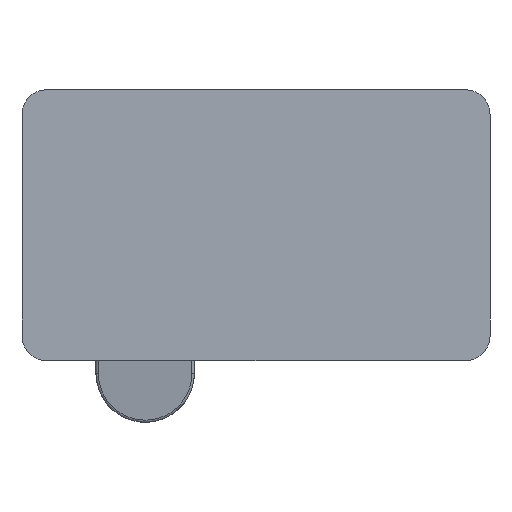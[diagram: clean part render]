
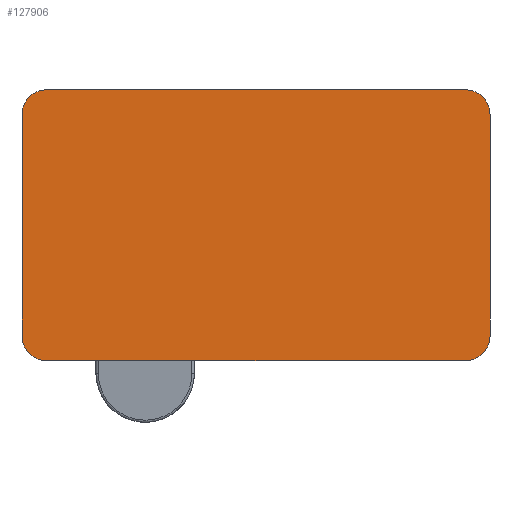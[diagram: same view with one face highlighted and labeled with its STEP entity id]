
A CAD part, front view. The second image highlights one B-rep face of the part: STEP entity #127906.
In plain terms, the highlighted planar face has unit normal (0, -1, 0).
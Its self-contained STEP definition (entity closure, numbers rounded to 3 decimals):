
#1494 = DIRECTION ( 'NONE',  ( 0., 0., 1. ) ) ;
#7765 = ORIENTED_EDGE ( 'NONE', *, *, #13666, .F. ) ;
#10540 = VERTEX_POINT ( 'NONE', #69849 ) ;
#10625 = LINE ( 'NONE', #12313, #63207 ) ;
#11127 = ORIENTED_EDGE ( 'NONE', *, *, #121320, .F. ) ;
#12313 = CARTESIAN_POINT ( 'NONE',  ( 50., 18., 187.046 ) ) ;
#13666 = EDGE_CURVE ( 'NONE', #21159, #10540, #35537, .T. ) ;
#17355 = EDGE_CURVE ( 'NONE', #141819, #43786, #98115, .T. ) ;
#19741 = CARTESIAN_POINT ( 'NONE',  ( 50., 18., 77.046 ) ) ;
#20115 = CARTESIAN_POINT ( 'NONE',  ( 50., 18., 187.046 ) ) ;
#21159 = VERTEX_POINT ( 'NONE', #70251 ) ;
#21265 = CARTESIAN_POINT ( 'NONE',  ( 50., 18., 187.046 ) ) ;
#26027 = DIRECTION ( 'NONE',  ( 1., 0., 0. ) ) ;
#28122 = DIRECTION ( 'NONE',  ( 0., 0., 1. ) ) ;
#30985 = VERTEX_POINT ( 'NONE', #121241 ) ;
#32110 = AXIS2_PLACEMENT_3D ( 'NONE', #80726, #131671, #1494 ) ;
#32869 = EDGE_CURVE ( 'NONE', #43786, #30985, #125665, .T. ) ;
#34306 = CARTESIAN_POINT ( 'NONE',  ( -140., 18., 177.046 ) ) ;
#35537 = LINE ( 'NONE', #20115, #101017 ) ;
#39491 = DIRECTION ( 'NONE',  ( 0., 1., 0. ) ) ;
#41100 = CARTESIAN_POINT ( 'NONE',  ( -140., 18., 187.046 ) ) ;
#43786 = VERTEX_POINT ( 'NONE', #60216 ) ;
#44767 = DIRECTION ( 'NONE',  ( -1., 0., 0. ) ) ;
#46327 = FACE_OUTER_BOUND ( 'NONE', #93470, .T. ) ;
#48870 = DIRECTION ( 'NONE',  ( 0., 1., 0. ) ) ;
#51227 = CIRCLE ( 'NONE', #59571, 10. ) ;
#52258 = DIRECTION ( 'NONE',  ( 0., 0., 1. ) ) ;
#53279 = VERTEX_POINT ( 'NONE', #76752 ) ;
#58020 = EDGE_CURVE ( 'NONE', #53279, #111525, #10625, .T. ) ;
#59571 = AXIS2_PLACEMENT_3D ( 'NONE', #157628, #39491, #130133 ) ;
#60216 = CARTESIAN_POINT ( 'NONE',  ( -130., 18., 77.046 ) ) ;
#60964 = PLANE ( 'NONE',  #89270 ) ;
#62093 = CIRCLE ( 'NONE', #111807, 10. ) ;
#63207 = VECTOR ( 'NONE', #26027, 1000. ) ;
#69849 = CARTESIAN_POINT ( 'NONE',  ( 50., 18., 87.046 ) ) ;
#70251 = CARTESIAN_POINT ( 'NONE',  ( 50., 18., 177.046 ) ) ;
#72638 = ORIENTED_EDGE ( 'NONE', *, *, #159352, .F. ) ;
#76034 = AXIS2_PLACEMENT_3D ( 'NONE', #170352, #148521, #52258 ) ;
#76752 = CARTESIAN_POINT ( 'NONE',  ( -130., 18., 187.046 ) ) ;
#79038 = DIRECTION ( 'NONE',  ( 0., 1., 0. ) ) ;
#80726 = CARTESIAN_POINT ( 'NONE',  ( -130., 18., 177.046 ) ) ;
#81650 = CARTESIAN_POINT ( 'NONE',  ( 40., 18., 187.046 ) ) ;
#84330 = CIRCLE ( 'NONE', #32110, 10. ) ;
#89270 = AXIS2_PLACEMENT_3D ( 'NONE', #21265, #48870, #139458 ) ;
#93470 = EDGE_LOOP ( 'NONE', ( #103064, #7765, #122535, #147551, #72638, #11127, #136133, #170127 ) ) ;
#93624 = CARTESIAN_POINT ( 'NONE',  ( 40., 18., 177.046 ) ) ;
#94973 = VERTEX_POINT ( 'NONE', #34306 ) ;
#98115 = LINE ( 'NONE', #19741, #129393 ) ;
#101017 = VECTOR ( 'NONE', #140810, 1000. ) ;
#103064 = ORIENTED_EDGE ( 'NONE', *, *, #141832, .F. ) ;
#108318 = LINE ( 'NONE', #41100, #162407 ) ;
#109997 = DIRECTION ( 'NONE',  ( 0., 0., 1. ) ) ;
#111525 = VERTEX_POINT ( 'NONE', #81650 ) ;
#111807 = AXIS2_PLACEMENT_3D ( 'NONE', #93624, #79038, #28122 ) ;
#121241 = CARTESIAN_POINT ( 'NONE',  ( -140., 18., 87.046 ) ) ;
#121320 = EDGE_CURVE ( 'NONE', #30985, #94973, #108318, .T. ) ;
#122535 = ORIENTED_EDGE ( 'NONE', *, *, #129158, .F. ) ;
#125665 = CIRCLE ( 'NONE', #76034, 10. ) ;
#127906 = ADVANCED_FACE ( 'NONE', ( #46327 ), #60964, .F. ) ;
#129158 = EDGE_CURVE ( 'NONE', #111525, #21159, #62093, .T. ) ;
#129393 = VECTOR ( 'NONE', #44767, 1000. ) ;
#130133 = DIRECTION ( 'NONE',  ( 0., 0., 1. ) ) ;
#131671 = DIRECTION ( 'NONE',  ( 0., 1., 0. ) ) ;
#136133 = ORIENTED_EDGE ( 'NONE', *, *, #32869, .F. ) ;
#139458 = DIRECTION ( 'NONE',  ( 0., 0., 1. ) ) ;
#140810 = DIRECTION ( 'NONE',  ( 0., 0., -1. ) ) ;
#141819 = VERTEX_POINT ( 'NONE', #144737 ) ;
#141832 = EDGE_CURVE ( 'NONE', #10540, #141819, #51227, .T. ) ;
#144737 = CARTESIAN_POINT ( 'NONE',  ( 40., 18., 77.046 ) ) ;
#147551 = ORIENTED_EDGE ( 'NONE', *, *, #58020, .F. ) ;
#148521 = DIRECTION ( 'NONE',  ( 0., 1., 0. ) ) ;
#157628 = CARTESIAN_POINT ( 'NONE',  ( 40., 18., 87.046 ) ) ;
#159352 = EDGE_CURVE ( 'NONE', #94973, #53279, #84330, .T. ) ;
#162407 = VECTOR ( 'NONE', #109997, 1000. ) ;
#170127 = ORIENTED_EDGE ( 'NONE', *, *, #17355, .F. ) ;
#170352 = CARTESIAN_POINT ( 'NONE',  ( -130., 18., 87.046 ) ) ;
